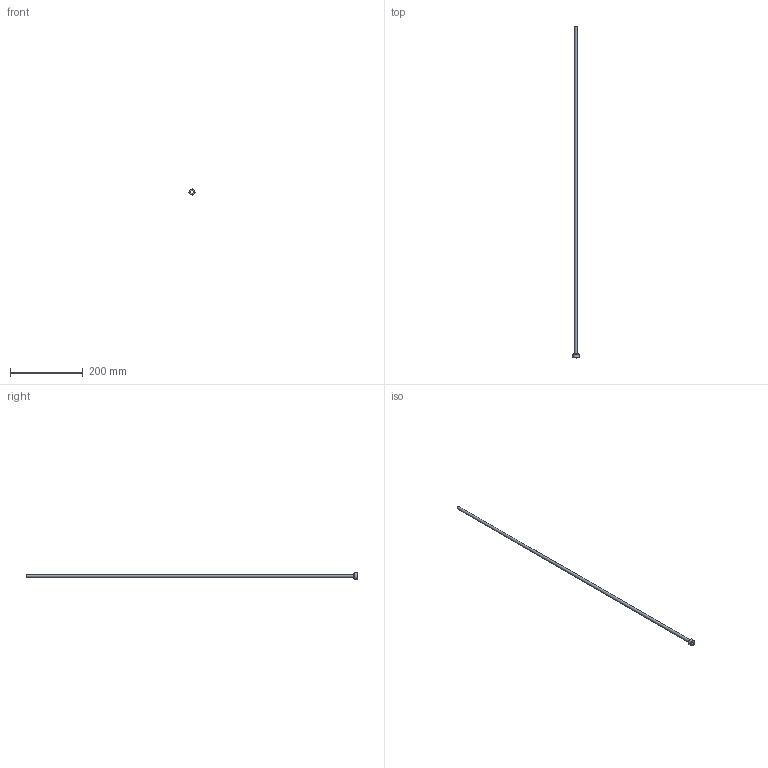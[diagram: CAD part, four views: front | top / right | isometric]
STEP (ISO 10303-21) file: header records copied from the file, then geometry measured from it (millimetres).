
FILE_DESCRIPTION(/* description */ (''),/* implementation_level */ '2;1');
FILE_NAME(/* name */ 'C:/Users/drich/Desktop/PT38-312-36 v1.step',/* time_stamp */ '2019-12-27T15:54:31-06:00',/* author */ (''),/* organization */ (''),/* preprocessor_version */ 'ST-DEVELOPER v18',/* originating_system */ 'Autodesk Translation Framework v8.12.0.6',/* authorisation */ '');
FILE_SCHEMA (('AUTOMOTIVE_DESIGN { 1 0 10303 214 3 1 1 }'));
Length unit declared in the file: inch
Products named in the file (1): PT38-312-36
Bounding box: 16.54 x 914.4 x 16.54 mm (x, y, z)
Volume: 8407.7 mm3; surface area: 44415.2 mm2
Topology: 1 solids, 1 shells, 19 faces, 48 edges, 34 vertices
Faces by surface type: plane 11, cylinder 4, torus 2, cone 2
Full cylindrical faces by diameter (mm): 7.315 x1, 7.925 x1, 11.938 x1, 16.537 x1
Entity records: 633 total; most frequent: DIRECTION 112, CARTESIAN_POINT 102, ORIENTED_EDGE 96, EDGE_CURVE 48, AXIS2_PLACEMENT_3D 44, VERTEX_POINT 34, CIRCLE 24, EDGE_LOOP 24
